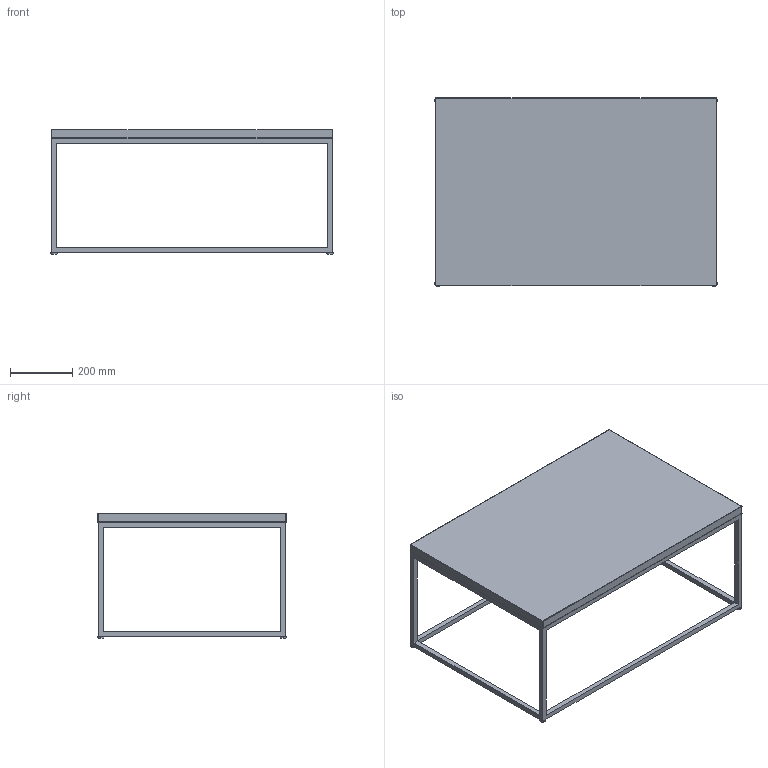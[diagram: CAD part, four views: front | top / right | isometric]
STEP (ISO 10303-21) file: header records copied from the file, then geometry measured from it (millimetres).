
FILE_DESCRIPTION(/* description */ (''),/* implementation_level */ '2;1');
FILE_NAME(/* name */ 'KINOSH~1',/* time_stamp */ '2019-07-24T10:11:09+09:00',/* author */ (''),/* organization */ (''),/* preprocessor_version */ 'ST-DEVELOPER v15',/* originating_system */ '',/* authorisation */ '');
FILE_SCHEMA (('AUTOMOTIVE_DESIGN'));
Length unit declared in the file: millimetre
Products named in the file (1): Document
Bounding box: 904 x 604 x 400 mm (x, y, z)
Volume: 17054979.7 mm3; surface area: 1630409.1 mm2
Topology: 6 solids, 6 shells, 83 faces, 188 edges, 104 vertices
Faces by surface type: plane 47, bspline 36
Entity records: 2399 total; most frequent: CARTESIAN_POINT 1189, ORIENTED_EDGE 360, EDGE_CURVE 180, B_SPLINE_CURVE_WITH_KNOTS 126, VERTEX_POINT 104, EDGE_LOOP 88, ADVANCED_FACE 83, FACE_OUTER_BOUND 83
